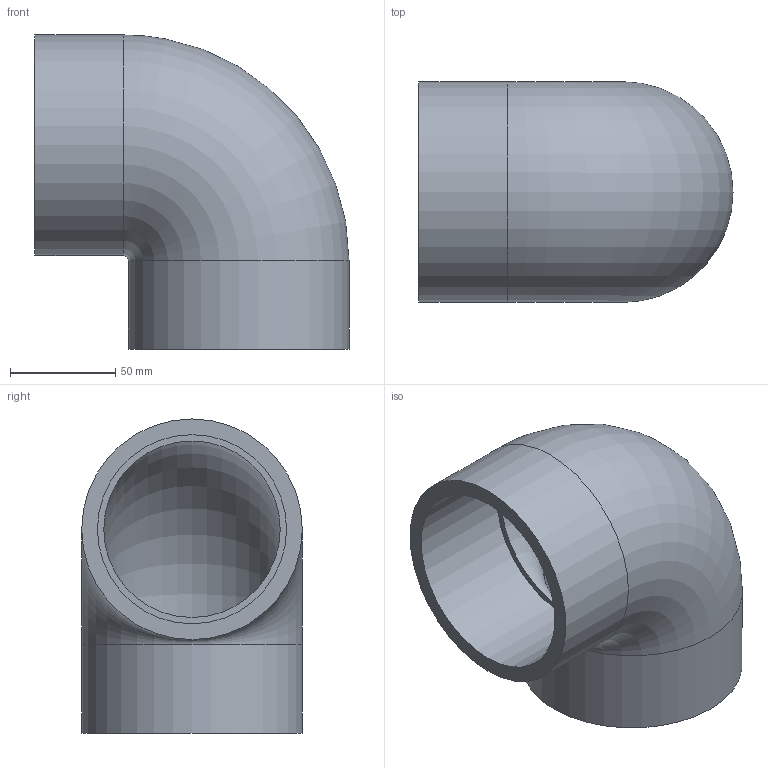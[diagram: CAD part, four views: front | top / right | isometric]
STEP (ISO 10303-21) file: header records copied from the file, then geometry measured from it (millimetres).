
FILE_DESCRIPTION(/* description */ ('PVC Elbow 90° solvent cement metric'),/* implementation_level */ '2;1');
FILE_NAME(/* name */ 'C:\Users\POLYPIPE\Desktop\DATASET INVENTOR\LIBRERIA EFFAST\RACCORDI 3DxWEB\RDR\3D_RDRGOD\3D_RDRGOD0900.stp',/* time_stamp */ '2018-01-19T14:28:07+01:00',/* author */ ('POLYPIPE'),/* organization */ ('Polypipe Italia s.r.l.'),/* preprocessor_version */ 'ST-DEVELOPER v16.1',/* originating_system */ 'Autodesk Inventor 2016',/* authorisation */ '');
FILE_SCHEMA (('CONFIG_CONTROL_DESIGN'));
Length unit declared in the file: millimetre
Products named in the file (1): 3D_RDRGOD
Bounding box: 149.5 x 105 x 149.5 mm (x, y, z)
Volume: 426116.9 mm3; surface area: 110349.7 mm2
Topology: 1 solids, 1 shells, 10 faces, 16 edges, 10 vertices
Faces by surface type: cylinder 4, plane 4, torus 2
Full cylindrical faces by diameter (mm): 90 x2, 105 x2
Entity records: 232 total; most frequent: DIRECTION 42, CARTESIAN_POINT 31, AXIS2_PLACEMENT_3D 21, EDGE_LOOP 20, ORIENTED_EDGE 20, FACE_BOUND 10, FACE_OUTER_BOUND 10, CIRCLE 10
